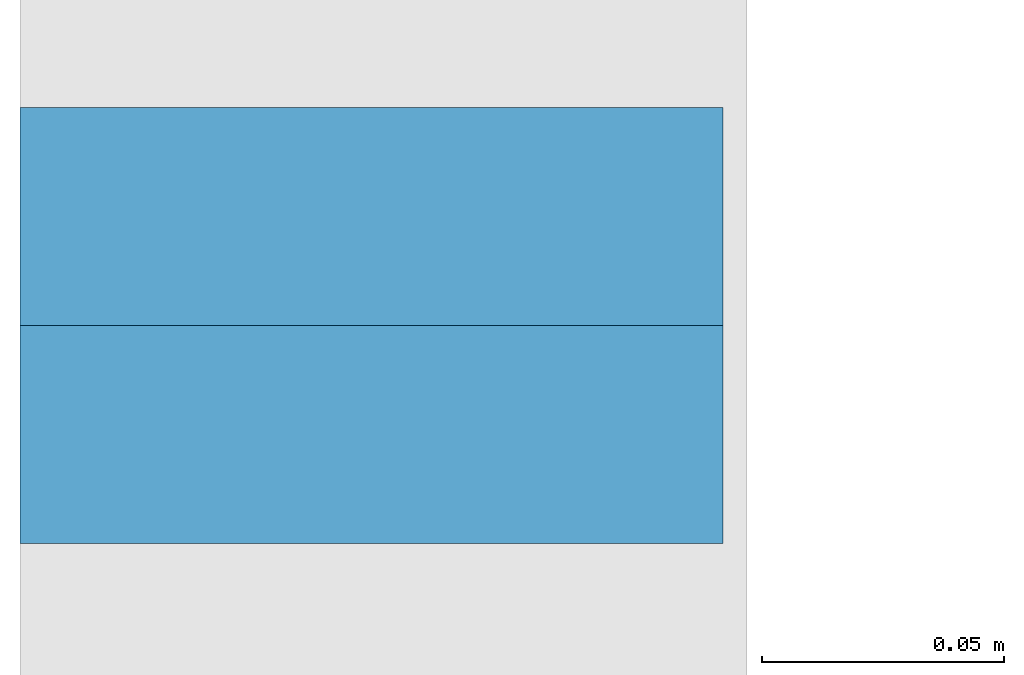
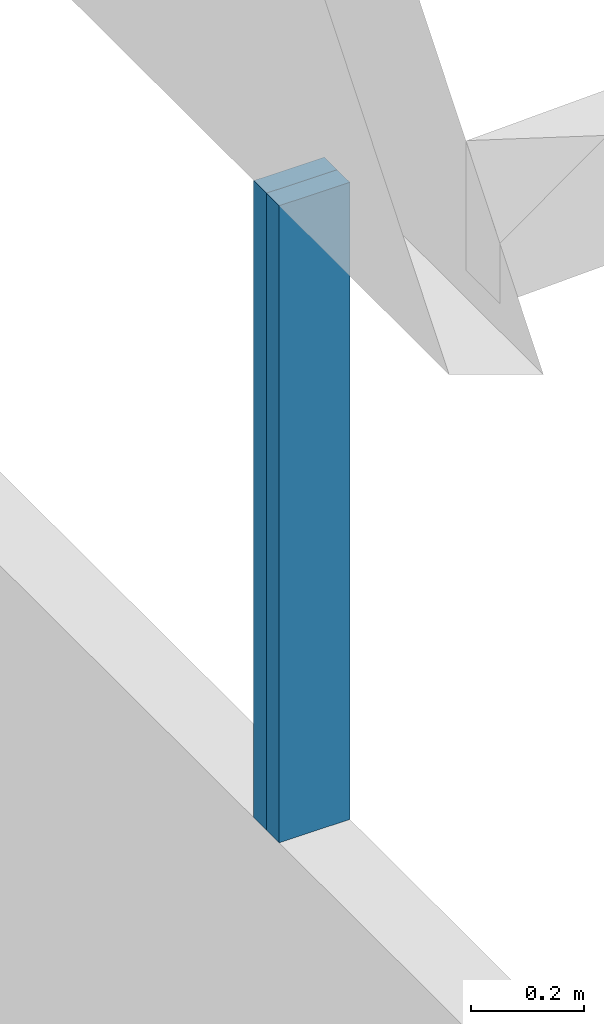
# One storey, part 1 of 9: 2 columns, 2 elements without a shape of their own.
"""IFC2X3 building model written with IfcOpenShell, lengths in millimetres."""

from ifc_helpers import new_model, si_unit, frame, origin_with_axes, origin_2d_with_axis, place, context, subcontext, project, spatial, rectangle, extrude, material, type_object, element, aggregate, save


model = new_model("IFC2X3")

# Units and contexts
model_context = context("Model", 3, precision=1e-05, world=origin_with_axes())
body_context = subcontext(model_context, "Body", "Model", "MODEL_VIEW")
ifc_project = project(units=[si_unit("LENGTHUNIT", "METRE", prefix="MILLI"), si_unit("AREAUNIT", "SQUARE_METRE"), si_unit("VOLUMEUNIT", "CUBIC_METRE"), si_unit("MASSUNIT", "GRAM", prefix="KILO"), si_unit("TIMEUNIT", "SECOND"), si_unit("PLANEANGLEUNIT", "RADIAN"), si_unit("SOLIDANGLEUNIT", "STERADIAN"), si_unit("THERMODYNAMICTEMPERATUREUNIT", "DEGREE_CELSIUS"), si_unit("LUMINOUSINTENSITYUNIT", "LUMEN")], contexts=[model_context])

# Site, building, storey
site_placement = place(None, origin_with_axes())
site = spatial("IfcSite", under=ifc_project, at=site_placement, Name="01_26-05_PRO_BOULAZAC_CMA-FORMATION", CompositionType="ELEMENT")
building_placement = place(site_placement, origin_with_axes())
building = spatial("IfcBuilding", under=site, at=building_placement, Name="Undefined", CompositionType="ELEMENT")
storey_placement = place(building_placement, origin_with_axes())
storey = spatial("IfcBuildingStorey", under=building, at=storey_placement, Name="Undefined", CompositionType="ELEMENT", Elevation=0.0)

# Assembly, column
assembly_1_placement = place(storey_placement, origin_with_axes())
assembly_1 = element("IfcElementAssembly", 1, at=assembly_1_placement, inside=storey, Name="POTEAU", AssemblyPlace="NOTDEFINED", PredefinedType="NOTDEFINED")
ifc_material = material(Name="TIMBER/C24")
column_type = type_object("IfcColumnType", Name="45*145", PredefinedType="NOTDEFINED")
column_1_placement = place(assembly_1_placement, frame((565.500061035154, 7784.07348228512, 1209.99996376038), z_axis=(0.0, 0.0, 1.0), x_axis=(0.0, -1.0, 0.0)))
column_1 = element("IfcColumn", 2, at=column_1_placement, type_object=column_type, material=ifc_material, Name="POTEAU", context=body_context, shape_type="SweptSolid", body=[
    extrude(rectangle(XDim=145.0, YDim=45.0, at=origin_2d_with_axis()), frame((0.0, 0.0, 1380.0), z_axis=(0.0, 0.0, -1.0), x_axis=(0.0, 1.0, 0.0)), (0.0, 0.0, 1.0), 1380.0),
])
aggregate(assembly_1, [column_1])

assembly_2_placement = place(storey_placement, origin_with_axes())
assembly_2 = element("IfcElementAssembly", 3, at=assembly_2_placement, inside=storey, Name="POTEAU", AssemblyPlace="NOTDEFINED", PredefinedType="NOTDEFINED")
column_2_placement = place(assembly_2_placement, frame((565.500061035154, 7739.07251771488, 1209.99996376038), z_axis=(0.0, 0.0, 1.0), x_axis=(0.0, 1.0, 0.0)))
column_2 = element("IfcColumn", 4, at=column_2_placement, type_object=column_type, material=ifc_material, Name="POTEAU", context=body_context, shape_type="SweptSolid", body=[
    extrude(rectangle(XDim=145.0, YDim=45.0, at=origin_2d_with_axis()), frame((0.0, 0.0, 1380.0), z_axis=(0.0, 0.0, -1.0), x_axis=(0.0, 1.0, 0.0)), (0.0, 0.0, 1.0), 1380.0),
])
aggregate(assembly_2, [column_2])

save(model, "model.ifc")
